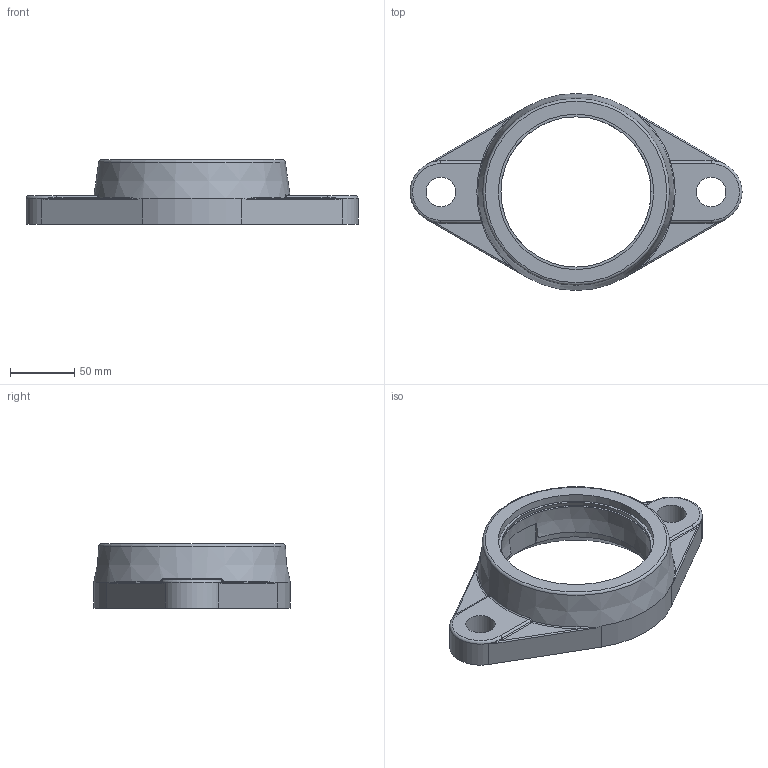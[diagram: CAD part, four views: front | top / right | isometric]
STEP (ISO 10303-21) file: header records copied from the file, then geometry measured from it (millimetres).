
FILE_DESCRIPTION(/* description */ (''),/* implementation_level */ '2;1');
FILE_NAME(/* name */ 'C:\MOJE SUBORY\03_Doplnenie 3D modelov\fmc\FM213.stp',/* time_stamp */ '2020-12-15T11:59:19+01:00',/* author */ ('OUPIONTEKM'),/* organization */ (''),/* preprocessor_version */ 'ST-DEVELOPER v18.1',/* originating_system */ 'Autodesk Inventor 2021',/* authorisation */ '');
FILE_SCHEMA (('AUTOMOTIVE_DESIGN { 1 0 10303 214 3 1 1 }'));
Length unit declared in the file: millimetre
Products named in the file (1): FM213
Bounding box: 258 x 153 x 50 mm (x, y, z)
Volume: 439349.9 mm3; surface area: 73884.1 mm2
Topology: 1 solids, 1 shells, 88 faces, 216 edges, 125 vertices
Faces by surface type: cylinder 24, plane 23, bspline 20, torus 13, sphere 6, cone 2
Full cylindrical faces by diameter (mm): 23 x2, 120.688 x1, 121.995 x1
Entity records: 3402 total; most frequent: CARTESIAN_POINT 1405, ORIENTED_EDGE 416, DIRECTION 404, EDGE_CURVE 208, AXIS2_PLACEMENT_3D 175, VERTEX_POINT 125, CIRCLE 106, EDGE_LOOP 97
